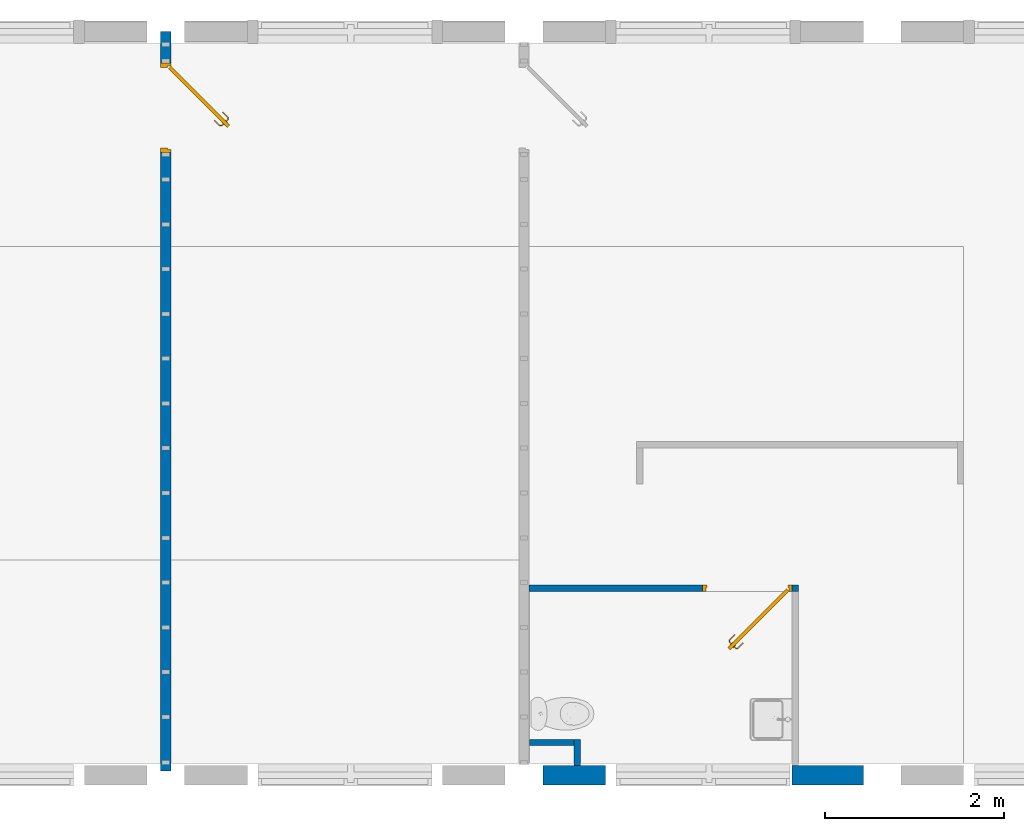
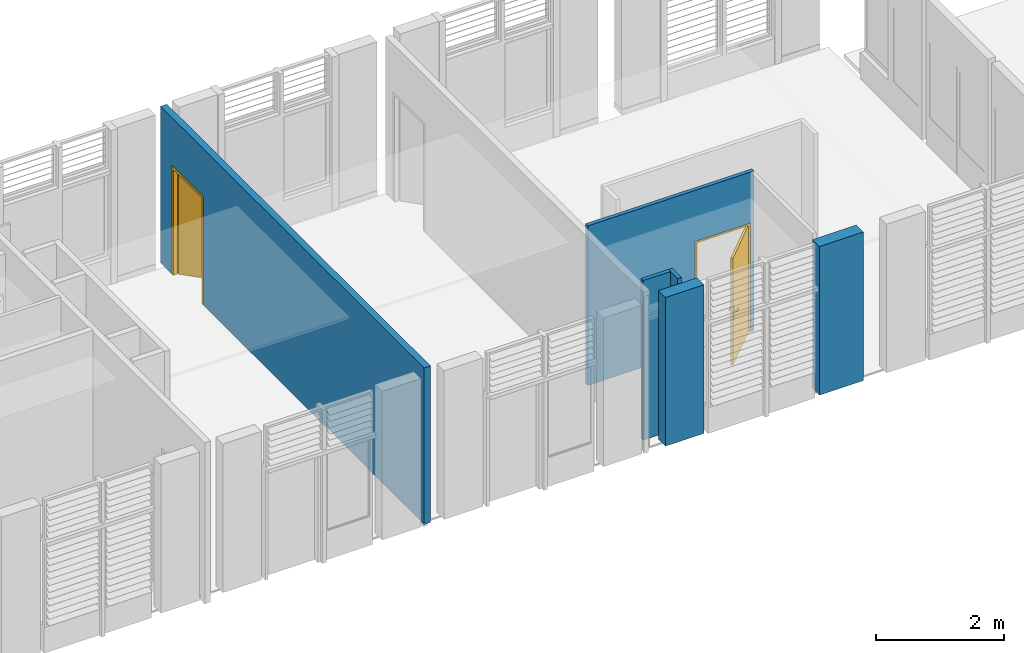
# One storey, part 6 of 15: 6 walls, 2 doors, 2 openings.
"""IFC2X3 building model written with IfcOpenShell, lengths in metres."""

from ifc_helpers import new_model, entity, si_unit, converted_unit, derived_unit, direction, frame, frame_2d, origin, place, context, subcontext, project, spatial, rectangle, extrude, faceted_brep, source, transform, mapped, material, layer, layer_set, layer_usage, type_object, type_shapes, element, fill, save


model = new_model("IFC2X3")

# Units and contexts
model_context = context("Model", 3, precision=1e-05, world=origin(), true_north=direction((6.12303176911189e-17, 1.0)))
body_context = subcontext(model_context, "Body", "Model", "MODEL_VIEW")
ifc_project = project(units=[si_unit("LENGTHUNIT", "METRE"), si_unit("AREAUNIT", "SQUARE_METRE"), si_unit("VOLUMEUNIT", "CUBIC_METRE"), converted_unit("PLANEANGLEUNIT", "DEGREE", entity("IfcRatioMeasure", 0.0174532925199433), si_unit("PLANEANGLEUNIT", "RADIAN"), dimensions=[0, 0, 0, 0, 0, 0, 0]), si_unit("MASSUNIT", "GRAM", prefix="KILO"), derived_unit("MASSDENSITYUNIT", [(si_unit("MASSUNIT", "GRAM", prefix="KILO"), 1), (si_unit("LENGTHUNIT", "METRE"), -3)]), si_unit("TIMEUNIT", "SECOND"), si_unit("FREQUENCYUNIT", "HERTZ"), si_unit("THERMODYNAMICTEMPERATUREUNIT", "DEGREE_CELSIUS"), derived_unit("THERMALTRANSMITTANCEUNIT", [(si_unit("MASSUNIT", "GRAM", prefix="KILO"), 1), (si_unit("THERMODYNAMICTEMPERATUREUNIT", "KELVIN"), -1), (si_unit("TIMEUNIT", "SECOND"), -3)]), derived_unit("VOLUMETRICFLOWRATEUNIT", [(si_unit("LENGTHUNIT", "METRE"), 3), (si_unit("TIMEUNIT", "SECOND"), -1)]), si_unit("ELECTRICCURRENTUNIT", "AMPERE"), si_unit("ELECTRICVOLTAGEUNIT", "VOLT"), si_unit("POWERUNIT", "WATT"), si_unit("FORCEUNIT", "NEWTON", prefix="KILO"), si_unit("ILLUMINANCEUNIT", "LUX"), si_unit("LUMINOUSFLUXUNIT", "LUMEN"), si_unit("LUMINOUSINTENSITYUNIT", "CANDELA"), derived_unit("USERDEFINED", [(si_unit("MASSUNIT", "GRAM", prefix="KILO"), -1), (si_unit("LENGTHUNIT", "METRE"), -2), (si_unit("TIMEUNIT", "SECOND"), 3), (si_unit("LUMINOUSFLUXUNIT", "LUMEN"), 1)]), derived_unit("LINEARVELOCITYUNIT", [(si_unit("LENGTHUNIT", "METRE"), 1), (si_unit("TIMEUNIT", "SECOND"), -1)]), si_unit("PRESSUREUNIT", "PASCAL"), derived_unit("USERDEFINED", [(si_unit("LENGTHUNIT", "METRE"), -2), (si_unit("MASSUNIT", "GRAM", prefix="KILO"), 1), (si_unit("TIMEUNIT", "SECOND"), -2)])], contexts=[model_context])

# Site, building, storey
site_placement = place(None, origin())
site = spatial("IfcSite", under=ifc_project, at=site_placement, Name="Surface", CompositionType="ELEMENT")
building_placement = place(site_placement, origin())
building = spatial("IfcBuilding", under=site, at=building_placement, Name="ExPREF", CompositionType="ELEMENT")
storey_placement = place(building_placement, frame((0.0, 0.0, 7.83)))
storey = spatial("IfcBuildingStorey", under=building, at=storey_placement, Name="R+2", CompositionType="ELEMENT", Elevation=7.83)

# Wall, opening, door
ifc_material_1 = material(Name="AA-mur cloison finition")
ifc_layer_1 = layer(ifc_material_1, 0.018)
ifc_material_2 = material(Name="AA-isolant plancher")
ifc_layer_2 = layer(ifc_material_2, 0.08)
ifc_layer_3 = layer(ifc_material_1, 0.018)
ifc_layer_set_1 = layer_set([ifc_layer_1, ifc_layer_2, ifc_layer_3], Name="Mur de base:A-cloison CP 11.6 cm")
ifc_layer_usage_1 = layer_usage(ifc_layer_set_1, "AXIS2", "POSITIVE", -0.058)
wall_type_1 = type_object("IfcWallType", Name="Mur de base:A-cloison CP 11.6 cm", PredefinedType="STANDARD", material=ifc_layer_set_1)
wall_1_placement = place(storey_placement, frame((53.4897436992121, -193.309650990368, 0.0), z_axis=(0.0, 0.0, 1.0), x_axis=(0.0, 1.0, 0.0)))
wall_1 = element("IfcWallStandardCase", 1, at=wall_1_placement, inside=storey, type_object=wall_type_1, material=ifc_layer_usage_1, Name="Mur de base:A-cloison CP 11.6 cm", ObjectType="Mur de base:A-cloison CP 11.6 cm", context=body_context, shape_type="SweptSolid", body=[
    extrude(rectangle(XDim=8.25316304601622, YDim=0.116000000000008, at=frame_2d((4.12658152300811, 8.04911692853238e-16), x_axis=(-1.0, 0.0))), origin(), (0.0, 0.0, 1.0), 2.99),
])
opening_1_placement = place(wall_1_placement, frame((7.90316304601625, 0.0580000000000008, 0.0)))
opening_1 = element("IfcOpeningElement", 2, at=opening_1_placement, cuts=wall_1, Name="Porte intérieur bois:PP (0.93m x 2.04m):1", ObjectType="Opening", context=body_context, shape_type="SweptSolid", body=[
    extrude(rectangle(XDim=2.075, YDim=0.999999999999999, at=frame_2d((1.0375, 0.5), x_axis=(1.0, 0.0))), frame((0.0, 0.0, 0.0), z_axis=(0.0, -1.0, 0.0), x_axis=(0.0, 0.0, 1.0)), (0.0, 0.0, 1.0), 0.116),
])
ifc_material_3 = material(Name="AA-Blanc satiné")
door_style_1 = type_object("IfcDoorStyle", Name="PP (0.93m x 2.04m)", ConstructionType="NOTDEFINED", OperationType="SINGLE_SWING_LEFT", ParameterTakesPrecedence=False, Sizeable=False, material=ifc_material_3)
shared_shape_1 = source(origin(), body_context, "Body", "Brep", [
    faceted_brep([(0.316565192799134, -0.584795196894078, 1.00778044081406), (0.313754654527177, -0.587605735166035, 1.007), (0.31375465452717, -0.587605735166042, 0.992999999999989), (0.316565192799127, -0.584795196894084, 0.99221955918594), (0.319429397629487, -0.581930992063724, 0.992219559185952), (0.32223993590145, -0.579120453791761, 0.993000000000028), (0.322239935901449, -0.579120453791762, 1.007), (0.319429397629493, -0.581930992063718, 1.00778044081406), (0.306340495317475, -0.563221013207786, 0.993000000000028), (0.306340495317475, -0.563221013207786, 1.007), (0.302365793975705, -0.56486738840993, 1.00778044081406), (0.302365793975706, -0.545331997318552, 1.00778044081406), (0.298315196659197, -0.543654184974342, 1.00778044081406), (0.298315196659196, -0.56654520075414, 1.00778044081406), (0.294340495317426, -0.568191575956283, 1.007), (0.294340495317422, -0.568191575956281, 0.992999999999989), (0.298315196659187, -0.566545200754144, 0.99221955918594), (0.298315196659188, -0.543654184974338, 0.99221955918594), (0.302365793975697, -0.545331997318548, 0.992219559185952), (0.302365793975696, -0.564867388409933, 0.992219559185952), (0.306340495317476, -0.546978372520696, 0.993000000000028), (0.306340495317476, -0.546978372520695, 1.007), (0.294340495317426, -0.542007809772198, 1.007), (0.294340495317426, -0.542007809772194, 0.992999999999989), (0.36471958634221, -0.488599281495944, 0.993000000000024), (0.361909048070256, -0.485788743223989, 0.992219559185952), (0.359044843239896, -0.48292453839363, 0.99221955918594), (0.356234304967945, -0.480114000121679, 0.992999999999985), (0.356234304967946, -0.480114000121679, 1.007), (0.359044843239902, -0.482924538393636, 1.00778044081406), (0.361909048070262, -0.485788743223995, 1.00778044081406), (0.364719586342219, -0.488599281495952, 1.007), (0.335530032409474, -0.517788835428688, 0.993000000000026), (0.335530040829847, -0.517788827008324, 1.007), (0.330705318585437, -0.51412826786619, 1.0078786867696), (0.322575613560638, -0.513772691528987, 1.007), (0.322575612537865, -0.513772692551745, 0.992999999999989), (0.330705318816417, -0.514128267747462, 0.992121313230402)], [[[0, 1, 2, 3, 4, 5, 6, 7]], [[6, 5, 8, 9]], [[9, 10, 7, 6]], [[10, 11, 12, 13, 0, 7]], [[13, 14, 1, 0]], [[2, 1, 14, 15]], [[15, 16, 3, 2]], [[16, 17, 18, 19, 4, 3]], [[19, 8, 5, 4]], [[9, 8, 20, 21]], [[21, 11, 10, 9]], [[12, 22, 14, 13]], [[15, 14, 22, 23]], [[23, 17, 16, 15]], [[18, 20, 8, 19]], [[24, 25, 26, 27, 28, 29, 30, 31]], [[21, 20, 32, 24, 31, 33]], [[33, 30, 34]], [[35, 34, 29]], [[21, 33, 11]], [[33, 31, 30]], [[28, 35, 29]], [[22, 12, 35]], [[35, 12, 34]], [[12, 11, 34]], [[11, 33, 34]], [[29, 34, 30]], [[22, 35, 28, 27, 36, 23]], [[36, 26, 37]], [[27, 26, 36]], [[17, 23, 36]], [[37, 32, 18]], [[20, 18, 32]], [[32, 25, 24]], [[26, 25, 37]], [[25, 32, 37]], [[17, 36, 37]], [[17, 37, 18]]]),
    faceted_brep([(0.351920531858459, -0.620150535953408, 1.00778044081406), (0.354784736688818, -0.617286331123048, 1.00778044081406), (0.357595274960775, -0.614475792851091, 1.00699999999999), (0.357595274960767, -0.614475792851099, 0.993000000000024), (0.354784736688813, -0.617286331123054, 0.992219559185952), (0.351920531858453, -0.620150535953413, 0.99221955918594), (0.349109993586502, -0.622961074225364, 0.992999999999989), (0.349109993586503, -0.622961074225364, 1.007), (0.368662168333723, -0.642513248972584, 1.007), (0.370308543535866, -0.638538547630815, 1.00778044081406), (0.3930050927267, -0.638538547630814, 1.00778044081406), (0.391327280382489, -0.634487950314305, 1.00778044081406), (0.371986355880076, -0.634487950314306, 1.00778044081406), (0.373632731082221, -0.630513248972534, 1.007), (0.373632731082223, -0.630513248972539, 0.993000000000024), (0.371986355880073, -0.634487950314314, 0.992219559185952), (0.391327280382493, -0.634487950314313, 0.992219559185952), (0.393005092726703, -0.638538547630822, 0.99221955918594), (0.370308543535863, -0.638538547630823, 0.99221955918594), (0.368662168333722, -0.642513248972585, 0.992999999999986), (0.394651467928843, -0.642513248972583, 1.007), (0.389680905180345, -0.630513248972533, 1.007), (0.38968090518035, -0.630513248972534, 0.993000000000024), (0.394651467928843, -0.642513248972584, 0.992999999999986), (0.456623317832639, -0.580541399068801, 0.992999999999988), (0.453812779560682, -0.577730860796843, 0.99221955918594), (0.450948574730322, -0.574866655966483, 0.992219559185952), (0.448138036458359, -0.57205611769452, 0.993000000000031), (0.44813803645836, -0.572056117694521, 1.007), (0.450948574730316, -0.574866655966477, 1.00778044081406), (0.453812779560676, -0.577730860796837, 1.00778044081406), (0.456623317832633, -0.580541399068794, 1.00699999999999), (0.422886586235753, -0.614278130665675, 1.007), (0.422570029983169, -0.606109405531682, 1.0078786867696), (0.418909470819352, -0.601284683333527, 1.007), (0.418909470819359, -0.601284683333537, 0.993000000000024), (0.422570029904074, -0.606109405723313, 0.992121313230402), (0.422886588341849, -0.614278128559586, 0.992999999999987)], [[[0, 1, 2, 3, 4, 5, 6, 7]], [[8, 9, 0, 7]], [[9, 10, 11, 12, 1, 0]], [[12, 13, 2, 1]], [[3, 2, 13, 14]], [[14, 15, 4, 3]], [[15, 16, 17, 18, 5, 4]], [[18, 19, 6, 5]], [[7, 6, 19, 8]], [[20, 10, 9, 8]], [[11, 21, 13, 12]], [[14, 13, 21, 22]], [[22, 16, 15, 14]], [[17, 23, 19, 18]], [[8, 19, 23, 20]], [[24, 25, 26, 27, 28, 29, 30, 31]], [[32, 30, 33]], [[31, 30, 32]], [[10, 20, 32]], [[33, 34, 11]], [[21, 11, 34]], [[34, 29, 28]], [[30, 29, 33]], [[29, 34, 33]], [[10, 32, 33]], [[10, 33, 11]], [[22, 21, 34, 28, 27, 35]], [[35, 26, 36]], [[37, 36, 25]], [[22, 35, 16]], [[35, 27, 26]], [[24, 37, 25]], [[23, 17, 37]], [[37, 17, 36]], [[17, 16, 36]], [[16, 35, 36]], [[25, 36, 26]], [[20, 23, 37, 24, 31, 32]]]),
    faceted_brep([(0.328853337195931, -0.579578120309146, 0.866003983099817), (0.335674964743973, -0.572756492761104, 0.870000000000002), (0.335674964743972, -0.572756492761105, 1.08), (0.32885333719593, -0.579578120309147, 1.08399601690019), (0.321532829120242, -0.586898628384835, 1.08535898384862), (0.314212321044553, -0.594219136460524, 1.08399601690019), (0.307390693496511, -0.601040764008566, 1.08), (0.307390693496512, -0.601040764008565, 0.870000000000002), (0.314212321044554, -0.594219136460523, 0.866003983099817), (0.321532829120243, -0.586898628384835, 0.86464101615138), (0.325317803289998, -0.576042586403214, 1.08399601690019), (0.33213943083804, -0.569220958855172, 1.08), (0.332139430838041, -0.569220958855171, 0.870000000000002), (0.325317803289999, -0.576042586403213, 0.866003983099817), (0.31799729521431, -0.583363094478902, 0.86464101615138), (0.310676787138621, -0.59068360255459, 0.866003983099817), (0.303855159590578, -0.597505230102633, 0.870000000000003), (0.303855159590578, -0.597505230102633, 1.08), (0.31067678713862, -0.590683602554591, 1.08399601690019), (0.317997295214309, -0.583363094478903, 1.08535898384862)], [[[0, 1, 2, 3, 4, 5, 6, 7, 8, 9]], [[10, 11, 12, 13, 14, 15, 16, 17, 18, 19]], [[11, 10, 3, 2]], [[3, 10, 19, 4]], [[19, 18, 5, 4]], [[18, 17, 6, 5]], [[7, 6, 17, 16]], [[16, 15, 8, 7]], [[8, 15, 14, 9]], [[14, 13, 0, 9]], [[13, 12, 1, 0]], [[2, 1, 12, 11]]]),
    faceted_brep([(0.360673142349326, -0.61139792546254, 0.866003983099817), (0.367494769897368, -0.604576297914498, 0.870000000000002), (0.367494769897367, -0.604576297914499, 1.08), (0.360673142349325, -0.611397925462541, 1.08399601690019), (0.353352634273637, -0.61871843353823, 1.08535898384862), (0.346032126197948, -0.626038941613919, 1.08399601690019), (0.339210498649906, -0.632860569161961, 1.08), (0.339210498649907, -0.63286056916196, 0.870000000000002), (0.346032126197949, -0.626038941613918, 0.866003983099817), (0.353352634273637, -0.618718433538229, 0.86464101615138), (0.357137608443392, -0.607862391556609, 1.08399601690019), (0.363959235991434, -0.601040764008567, 1.08), (0.363959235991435, -0.601040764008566, 0.870000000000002), (0.357137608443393, -0.607862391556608, 0.866003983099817), (0.349817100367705, -0.615182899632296, 0.86464101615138), (0.342496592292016, -0.622503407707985, 0.866003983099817), (0.335674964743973, -0.629325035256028, 0.870000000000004), (0.335674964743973, -0.629325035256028, 1.08), (0.342496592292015, -0.622503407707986, 1.08399601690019), (0.349817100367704, -0.615182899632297, 1.08535898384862)], [[[0, 1, 2, 3, 4, 5, 6, 7, 8, 9]], [[10, 11, 12, 13, 14, 15, 16, 17, 18, 19]], [[16, 15, 8, 7]], [[8, 15, 14, 9]], [[14, 13, 0, 9]], [[13, 12, 1, 0]], [[2, 1, 12, 11]], [[11, 10, 3, 2]], [[3, 10, 19, 4]], [[19, 18, 5, 4]], [[18, 17, 6, 5]], [[7, 6, 17, 16]]]),
    faceted_brep([(0.279106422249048, -0.629325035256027, 2.04), (0.936715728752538, 0.0282842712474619, 2.04), (0.936715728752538, 0.0282842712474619, 0.0), (0.279106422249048, -0.629325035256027, 0.0), (0.30739069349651, -0.657609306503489, 2.04), (0.30739069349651, -0.657609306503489, 0.0), (0.965, 0.0, 0.0), (0.965, 0.0, 2.04)], [[[0, 1, 2, 3]], [[4, 5, 6, 7]], [[1, 0, 4, 7]], [[2, 1, 7, 6]], [[3, 2, 6, 5]], [[0, 3, 5, 4]]]),
    faceted_brep([(0.0, 0.0, 0.0), (0.0, 0.116000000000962, 0.0), (0.0499999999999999, 0.116000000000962, 0.0), (0.0499999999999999, 0.0400000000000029, 0.0), (0.0349999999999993, 0.0400000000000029, 0.0), (0.0349999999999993, 0.0, 0.0), (0.0, 0.0, 2.07500000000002), (0.0, 0.116000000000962, 2.07500000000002), (1.0, 0.116000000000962, 2.07500000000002), (1.0, 0.116000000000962, 0.0), (0.95, 0.116000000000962, 0.0), (0.95, 0.116000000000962, 2.025), (0.0500000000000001, 0.116000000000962, 2.025), (0.05, 0.0400000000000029, 2.025), (0.95, 0.0400000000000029, 2.025), (0.95, 0.0400000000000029, 0.0), (0.965, 0.0400000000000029, 0.0), (0.965, 0.0400000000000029, 2.04), (0.0349999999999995, 0.0400000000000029, 2.04), (0.0349999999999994, 0.0, 2.04), (0.965, 0.0, 2.04), (0.965, 0.0, 0.0), (1.0, 0.0, 0.0), (1.0, 0.0, 2.07500000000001)], [[[0, 1, 2, 3, 4, 5]], [[1, 0, 6, 7]], [[2, 1, 7, 8, 9, 10, 11, 12]], [[3, 2, 12, 13]], [[4, 3, 13, 14, 15, 16, 17, 18]], [[5, 4, 18, 19]], [[0, 5, 19, 20, 21, 22, 23, 6]], [[8, 23, 22, 9]], [[22, 21, 16, 15, 10, 9]], [[14, 11, 10, 15]], [[20, 17, 16, 21]], [[7, 6, 23, 8]], [[13, 12, 11, 14]], [[19, 18, 17, 20]]]),
])
type_shapes(door_style_1, [shared_shape_1])
door_1_placement = place(opening_1_placement, frame((-1.0, -0.116000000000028, 0.0)))
door_1 = element("IfcDoor", 3, at=door_1_placement, inside=storey, type_object=door_style_1, material=ifc_material_3, Name="Porte intérieur bois:PP (0.93m x 2.04m)", ObjectType="PP (0.93m x 2.04m)", OverallHeight=2.075, OverallWidth=1.00000000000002, context=body_context, shape_type="MappedRepresentation", body=[
    mapped(shared_shape_1, transform((0.0, 0.0, 0.0), scale=1.0)),
])
fill(opening_1, door_1)

ifc_material_4 = material(Name="AA-fermacell peint")
ifc_layer_4 = layer(ifc_material_4, 0.0125)
ifc_layer_5 = layer(ifc_material_2, 0.045)
ifc_layer_6 = layer(ifc_material_4, 0.0125)
ifc_layer_set_2 = layer_set([ifc_layer_4, ifc_layer_5, ifc_layer_6], Name="Mur de base:Générique - Int. 70 mm")
ifc_layer_usage_2 = layer_usage(ifc_layer_set_2, "AXIS2", "POSITIVE", -0.035)
wall_type_2 = type_object("IfcWallType", Name="Mur de base:Générique - Int. 70 mm", PredefinedType="STANDARD", material=ifc_layer_set_2)
wall_2_placement = place(storey_placement, frame((57.5477436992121, -191.270596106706, 0.0)))
wall_2 = element("IfcWallStandardCase", 4, at=wall_2_placement, inside=storey, type_object=wall_type_2, material=ifc_layer_usage_2, Name="Mur de base:Générique - Int. 70 mm", ObjectType="Mur de base:Générique - Int. 70 mm", context=body_context, shape_type="SweptSolid", body=[
    extrude(rectangle(XDim=3.00699999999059, YDim=0.0700000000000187, at=frame_2d((1.5034999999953, -7.65013052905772e-15), x_axis=(-1.0, 0.0))), origin(), (0.0, 0.0, 1.0), 3.05),
])
opening_2_placement = place(wall_2_placement, frame((2.93699999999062, 0.0350000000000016, 0.0)))
opening_2 = element("IfcOpeningElement", 5, at=opening_2_placement, cuts=wall_2, Name="Porte intérieur bois:PP (0.93m x 2.04m):1", ObjectType="Opening", context=body_context, shape_type="SweptSolid", body=[
    extrude(rectangle(XDim=2.075, YDim=1.0, at=frame_2d((1.0375, 0.5), x_axis=(1.0, 0.0))), frame((0.0, 0.0, 0.0), z_axis=(0.0, -1.0, 0.0), x_axis=(0.0, 0.0, 1.0)), (0.0, 0.0, 1.0), 0.07),
])
door_style_2 = type_object("IfcDoorStyle", Name="PP (0.93m x 2.04m)", ConstructionType="NOTDEFINED", OperationType="SINGLE_SWING_LEFT", ParameterTakesPrecedence=False, Sizeable=False, material=ifc_material_3)
shared_shape_2 = source(origin(), body_context, "Body", "Brep", [
    faceted_brep([(0.316565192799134, -0.584795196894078, 1.00778044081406), (0.313754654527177, -0.587605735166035, 1.007), (0.31375465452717, -0.587605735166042, 0.992999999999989), (0.316565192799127, -0.584795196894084, 0.99221955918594), (0.319429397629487, -0.581930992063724, 0.992219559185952), (0.32223993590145, -0.579120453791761, 0.993000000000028), (0.322239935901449, -0.579120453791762, 1.007), (0.319429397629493, -0.581930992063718, 1.00778044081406), (0.306340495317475, -0.563221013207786, 0.993000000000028), (0.306340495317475, -0.563221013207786, 1.007), (0.302365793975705, -0.56486738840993, 1.00778044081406), (0.302365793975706, -0.545331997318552, 1.00778044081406), (0.298315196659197, -0.543654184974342, 1.00778044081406), (0.298315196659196, -0.56654520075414, 1.00778044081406), (0.294340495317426, -0.568191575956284, 1.007), (0.294340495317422, -0.568191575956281, 0.992999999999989), (0.298315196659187, -0.566545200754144, 0.99221955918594), (0.298315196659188, -0.543654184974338, 0.99221955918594), (0.302365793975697, -0.545331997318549, 0.992219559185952), (0.302365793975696, -0.564867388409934, 0.992219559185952), (0.306340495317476, -0.546978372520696, 0.993000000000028), (0.306340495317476, -0.546978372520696, 1.007), (0.294340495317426, -0.542007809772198, 1.007), (0.294340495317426, -0.542007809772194, 0.992999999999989), (0.36471958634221, -0.488599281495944, 0.993000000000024), (0.361909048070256, -0.485788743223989, 0.992219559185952), (0.359044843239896, -0.48292453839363, 0.99221955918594), (0.356234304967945, -0.480114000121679, 0.992999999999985), (0.356234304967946, -0.48011400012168, 1.007), (0.359044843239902, -0.482924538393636, 1.00778044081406), (0.361909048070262, -0.485788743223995, 1.00778044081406), (0.364719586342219, -0.488599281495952, 1.007), (0.335530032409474, -0.517788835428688, 0.993000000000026), (0.335530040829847, -0.517788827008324, 1.007), (0.330705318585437, -0.51412826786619, 1.0078786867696), (0.322575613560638, -0.513772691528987, 1.007), (0.322575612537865, -0.513772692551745, 0.992999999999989), (0.330705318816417, -0.514128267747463, 0.992121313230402)], [[[0, 1, 2, 3, 4, 5, 6, 7]], [[6, 5, 8, 9]], [[9, 10, 7, 6]], [[10, 11, 12, 13, 0, 7]], [[13, 14, 1, 0]], [[2, 1, 14, 15]], [[15, 16, 3, 2]], [[16, 17, 18, 19, 4, 3]], [[19, 8, 5, 4]], [[9, 8, 20, 21]], [[21, 11, 10, 9]], [[12, 22, 14, 13]], [[15, 14, 22, 23]], [[23, 17, 16, 15]], [[18, 20, 8, 19]], [[24, 25, 26, 27, 28, 29, 30, 31]], [[21, 20, 32, 24, 31, 33]], [[33, 30, 34]], [[35, 34, 29]], [[21, 33, 11]], [[33, 31, 30]], [[28, 35, 29]], [[22, 12, 35]], [[35, 12, 34]], [[12, 11, 34]], [[11, 33, 34]], [[29, 34, 30]], [[22, 35, 28, 27, 36, 23]], [[36, 26, 37]], [[27, 26, 36]], [[17, 23, 36]], [[37, 32, 18]], [[20, 18, 32]], [[32, 25, 24]], [[26, 25, 37]], [[25, 32, 37]], [[17, 36, 37]], [[17, 37, 18]]]),
    faceted_brep([(0.351920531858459, -0.620150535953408, 1.00778044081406), (0.354784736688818, -0.617286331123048, 1.00778044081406), (0.357595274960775, -0.614475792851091, 1.00699999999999), (0.357595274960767, -0.614475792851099, 0.993000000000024), (0.354784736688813, -0.617286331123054, 0.992219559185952), (0.351920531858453, -0.620150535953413, 0.99221955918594), (0.349109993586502, -0.622961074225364, 0.992999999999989), (0.349109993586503, -0.622961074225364, 1.007), (0.368662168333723, -0.642513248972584, 1.007), (0.370308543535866, -0.638538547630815, 1.00778044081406), (0.3930050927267, -0.638538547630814, 1.00778044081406), (0.391327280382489, -0.634487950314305, 1.00778044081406), (0.371986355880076, -0.634487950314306, 1.00778044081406), (0.373632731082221, -0.630513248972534, 1.007), (0.373632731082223, -0.630513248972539, 0.993000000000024), (0.371986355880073, -0.634487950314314, 0.992219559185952), (0.391327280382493, -0.634487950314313, 0.992219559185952), (0.393005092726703, -0.638538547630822, 0.99221955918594), (0.370308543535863, -0.638538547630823, 0.99221955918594), (0.368662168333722, -0.642513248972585, 0.992999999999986), (0.394651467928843, -0.642513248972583, 1.007), (0.389680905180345, -0.630513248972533, 1.007), (0.38968090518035, -0.630513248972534, 0.993000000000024), (0.394651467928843, -0.642513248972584, 0.992999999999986), (0.456623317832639, -0.580541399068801, 0.992999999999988), (0.453812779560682, -0.577730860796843, 0.99221955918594), (0.450948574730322, -0.574866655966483, 0.992219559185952), (0.448138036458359, -0.57205611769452, 0.993000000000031), (0.44813803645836, -0.572056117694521, 1.007), (0.450948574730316, -0.574866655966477, 1.00778044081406), (0.453812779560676, -0.577730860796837, 1.00778044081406), (0.456623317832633, -0.580541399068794, 1.00699999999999), (0.422886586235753, -0.614278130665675, 1.007), (0.422570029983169, -0.606109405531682, 1.0078786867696), (0.418909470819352, -0.601284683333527, 1.007), (0.418909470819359, -0.601284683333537, 0.993000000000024), (0.422570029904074, -0.606109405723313, 0.992121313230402), (0.422886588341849, -0.614278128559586, 0.992999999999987)], [[[0, 1, 2, 3, 4, 5, 6, 7]], [[8, 9, 0, 7]], [[9, 10, 11, 12, 1, 0]], [[12, 13, 2, 1]], [[3, 2, 13, 14]], [[14, 15, 4, 3]], [[15, 16, 17, 18, 5, 4]], [[18, 19, 6, 5]], [[7, 6, 19, 8]], [[20, 10, 9, 8]], [[11, 21, 13, 12]], [[14, 13, 21, 22]], [[22, 16, 15, 14]], [[17, 23, 19, 18]], [[8, 19, 23, 20]], [[24, 25, 26, 27, 28, 29, 30, 31]], [[32, 30, 33]], [[31, 30, 32]], [[10, 20, 32]], [[33, 34, 11]], [[21, 11, 34]], [[34, 29, 28]], [[30, 29, 33]], [[29, 34, 33]], [[10, 32, 33]], [[10, 33, 11]], [[22, 21, 34, 28, 27, 35]], [[35, 26, 36]], [[37, 36, 25]], [[22, 35, 16]], [[35, 27, 26]], [[24, 37, 25]], [[23, 17, 37]], [[37, 17, 36]], [[17, 16, 36]], [[16, 35, 36]], [[25, 36, 26]], [[20, 23, 37, 24, 31, 32]]]),
    faceted_brep([(0.328853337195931, -0.579578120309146, 0.866003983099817), (0.335674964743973, -0.572756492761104, 0.870000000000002), (0.335674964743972, -0.572756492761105, 1.08), (0.32885333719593, -0.579578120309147, 1.08399601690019), (0.321532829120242, -0.586898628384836, 1.08535898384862), (0.314212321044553, -0.594219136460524, 1.08399601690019), (0.307390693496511, -0.601040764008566, 1.08), (0.307390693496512, -0.601040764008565, 0.870000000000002), (0.314212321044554, -0.594219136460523, 0.866003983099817), (0.321532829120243, -0.586898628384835, 0.86464101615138), (0.325317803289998, -0.576042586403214, 1.08399601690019), (0.33213943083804, -0.569220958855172, 1.08), (0.332139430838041, -0.569220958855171, 0.870000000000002), (0.325317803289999, -0.576042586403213, 0.866003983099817), (0.31799729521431, -0.583363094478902, 0.86464101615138), (0.310676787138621, -0.590683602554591, 0.866003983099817), (0.303855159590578, -0.597505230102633, 0.870000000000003), (0.303855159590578, -0.597505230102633, 1.08), (0.31067678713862, -0.590683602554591, 1.08399601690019), (0.317997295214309, -0.583363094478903, 1.08535898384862)], [[[0, 1, 2, 3, 4, 5, 6, 7, 8, 9]], [[10, 11, 12, 13, 14, 15, 16, 17, 18, 19]], [[11, 10, 3, 2]], [[3, 10, 19, 4]], [[19, 18, 5, 4]], [[18, 17, 6, 5]], [[7, 6, 17, 16]], [[16, 15, 8, 7]], [[8, 15, 14, 9]], [[14, 13, 0, 9]], [[13, 12, 1, 0]], [[2, 1, 12, 11]]]),
    faceted_brep([(0.360673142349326, -0.61139792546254, 0.866003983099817), (0.367494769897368, -0.604576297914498, 0.870000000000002), (0.367494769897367, -0.604576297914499, 1.08), (0.360673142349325, -0.611397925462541, 1.08399601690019), (0.353352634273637, -0.61871843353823, 1.08535898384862), (0.346032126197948, -0.626038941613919, 1.08399601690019), (0.339210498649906, -0.632860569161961, 1.08), (0.339210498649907, -0.63286056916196, 0.870000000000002), (0.346032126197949, -0.626038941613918, 0.866003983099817), (0.353352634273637, -0.618718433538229, 0.86464101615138), (0.357137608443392, -0.607862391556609, 1.08399601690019), (0.363959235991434, -0.601040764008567, 1.08), (0.363959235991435, -0.601040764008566, 0.870000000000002), (0.357137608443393, -0.607862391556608, 0.866003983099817), (0.349817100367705, -0.615182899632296, 0.86464101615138), (0.342496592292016, -0.622503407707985, 0.866003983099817), (0.335674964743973, -0.629325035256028, 0.870000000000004), (0.335674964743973, -0.629325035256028, 1.08), (0.342496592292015, -0.622503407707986, 1.08399601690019), (0.349817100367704, -0.615182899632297, 1.08535898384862)], [[[0, 1, 2, 3, 4, 5, 6, 7, 8, 9]], [[10, 11, 12, 13, 14, 15, 16, 17, 18, 19]], [[16, 15, 8, 7]], [[8, 15, 14, 9]], [[14, 13, 0, 9]], [[13, 12, 1, 0]], [[2, 1, 12, 11]], [[11, 10, 3, 2]], [[3, 10, 19, 4]], [[19, 18, 5, 4]], [[18, 17, 6, 5]], [[7, 6, 17, 16]]]),
    faceted_brep([(0.279106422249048, -0.629325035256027, 2.04), (0.936715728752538, 0.0282842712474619, 2.04), (0.936715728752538, 0.0282842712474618, 0.0), (0.279106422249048, -0.629325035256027, 0.0), (0.30739069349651, -0.657609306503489, 2.04), (0.30739069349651, -0.657609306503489, 0.0), (0.965, 0.0, 0.0), (0.965, 0.0, 2.04)], [[[0, 1, 2, 3]], [[4, 5, 6, 7]], [[1, 0, 4, 7]], [[2, 1, 7, 6]], [[3, 2, 6, 5]], [[0, 3, 5, 4]]]),
    faceted_brep([(0.0, 0.0, 0.0), (0.0, 0.0699999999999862, 0.0), (0.0500000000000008, 0.0699999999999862, 0.0), (0.0500000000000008, 0.04, 0.0), (0.0349999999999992, 0.04, 0.0), (0.0349999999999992, 0.0, 0.0), (0.0, 0.0, 2.07500000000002), (0.0, 0.0699999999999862, 2.07500000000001), (1.0, 0.0699999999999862, 2.07500000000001), (1.0, 0.0699999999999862, 0.0), (0.949999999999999, 0.0699999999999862, 0.0), (0.949999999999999, 0.0699999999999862, 2.025), (0.050000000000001, 0.0699999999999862, 2.025), (0.0500000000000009, 0.04, 2.025), (0.949999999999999, 0.04, 2.025), (0.949999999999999, 0.04, 0.0), (0.965, 0.04, 0.0), (0.965, 0.04, 2.04), (0.0349999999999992, 0.04, 2.04), (0.0349999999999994, 0.0, 2.04), (0.965000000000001, 0.0, 2.04), (0.965, 0.0, 0.0), (1.0, 0.0, 0.0), (1.0, 0.0, 2.07500000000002)], [[[0, 1, 2, 3, 4, 5]], [[1, 0, 6, 7]], [[2, 1, 7, 8, 9, 10, 11, 12]], [[3, 2, 12, 13]], [[4, 3, 13, 14, 15, 16, 17, 18]], [[5, 4, 18, 19]], [[0, 5, 19, 20, 21, 22, 23, 6]], [[8, 23, 22, 9]], [[22, 21, 16, 15, 10, 9]], [[14, 11, 10, 15]], [[20, 17, 16, 21]], [[7, 6, 23, 8]], [[13, 12, 11, 14]], [[19, 18, 17, 20]]]),
])
type_shapes(door_style_2, [shared_shape_2])
door_2_placement = place(opening_2_placement, frame((-1.0, -0.0699999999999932, 0.0)))
door_2 = element("IfcDoor", 6, at=door_2_placement, inside=storey, type_object=door_style_2, material=ifc_material_3, Name="Porte intérieur bois:PP (0.93m x 2.04m)", ObjectType="PP (0.93m x 2.04m)", OverallHeight=2.075, OverallWidth=0.999999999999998, context=body_context, shape_type="MappedRepresentation", body=[
    mapped(shared_shape_2, transform((0.0, 0.0, 0.0), scale=1.0)),
])
fill(opening_2, door_2)

# Walls
ifc_layer_usage_3 = layer_usage(ifc_layer_set_2, "AXIS2", "NEGATIVE", 0.035)
wall_3_placement = place(storey_placement, frame((58.0847432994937, -192.959651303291, 0.0), z_axis=(0.0, 0.0, 1.0), x_axis=(0.0, -1.0, 0.0)))
element("IfcWallStandardCase", 7, at=wall_3_placement, inside=storey, type_object=wall_type_2, material=ifc_layer_usage_3, Name="Mur de base:Générique - Int. 70 mm", ObjectType="Mur de base:Générique - Int. 70 mm", context=body_context, shape_type="SweptSolid", body=[
    extrude(rectangle(XDim=0.289999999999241, YDim=0.0700000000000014, at=frame_2d((0.144999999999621, 0.0), x_axis=(-1.0, 0.0))), origin(), (0.0, 0.0, 1.0), 3.05),
])
ifc_layer_usage_4 = layer_usage(ifc_layer_set_2, "AXIS2", "NEGATIVE", 0.035)
wall_4_placement = place(storey_placement, frame((57.5514738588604, -192.994651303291, 0.0)))
element("IfcWallStandardCase", 8, at=wall_4_placement, inside=storey, type_object=wall_type_2, material=ifc_layer_usage_4, Name="Mur de base:Générique - Int. 70 mm", ObjectType="Mur de base:Générique - Int. 70 mm", context=body_context, shape_type="SweptSolid", body=[
    extrude(rectangle(XDim=0.498269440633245, YDim=0.0700000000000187, at=frame_2d((0.249134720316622, 0.0), x_axis=(-1.0, 0.0))), origin(), (0.0, 0.0, 1.0), 3.05),
])
ifc_material_5 = material(Name="AA-BTC")
ifc_layer_7 = layer(ifc_material_5, 0.22)
ifc_layer_set_3 = layer_set([ifc_layer_7], Name="Mur de base:A-prémur BTC")
ifc_layer_usage_5 = layer_usage(ifc_layer_set_3, "AXIS2", "NEGATIVE", 0.11)
wall_type_3 = type_object("IfcWallType", Name="Mur de base:A-prémur BTC", PredefinedType="STANDARD", material=ifc_layer_set_3)
wall_5_placement = place(storey_placement, frame((57.6997436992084, -193.359651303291, 0.0999999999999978)))
element("IfcWallStandardCase", 9, at=wall_5_placement, inside=storey, type_object=wall_type_3, material=ifc_layer_usage_5, Name="Mur de base:A-prémur BTC", ObjectType="Mur de base:A-prémur BTC", context=body_context, shape_type="SweptSolid", body=[
    extrude(rectangle(XDim=0.699999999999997, YDim=0.220000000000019, at=frame_2d((0.349999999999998, -5.98826543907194e-15), x_axis=(-1.0, 0.0))), origin(), (0.0, 0.0, 1.0), 2.84),
])
ifc_layer_usage_6 = layer_usage(ifc_layer_set_3, "AXIS2", "POSITIVE", -0.11)
wall_6_placement = place(storey_placement, frame((61.2797436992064, -193.359651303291, 0.0999999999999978), z_axis=(0.0, 0.0, 1.0), x_axis=(-1.0, 0.0, 0.0)))
element("IfcWallStandardCase", 10, at=wall_6_placement, inside=storey, type_object=wall_type_3, material=ifc_layer_usage_6, Name="Mur de base:A-prémur BTC", ObjectType="Mur de base:A-prémur BTC", context=body_context, shape_type="SweptSolid", body=[
    extrude(rectangle(XDim=0.795000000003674, YDim=0.220000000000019, at=frame_2d((0.397500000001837, -6.80011602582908e-15), x_axis=(-1.0, 0.0))), origin(), (0.0, 0.0, 1.0), 2.84),
])

save(model, "model.ifc")
